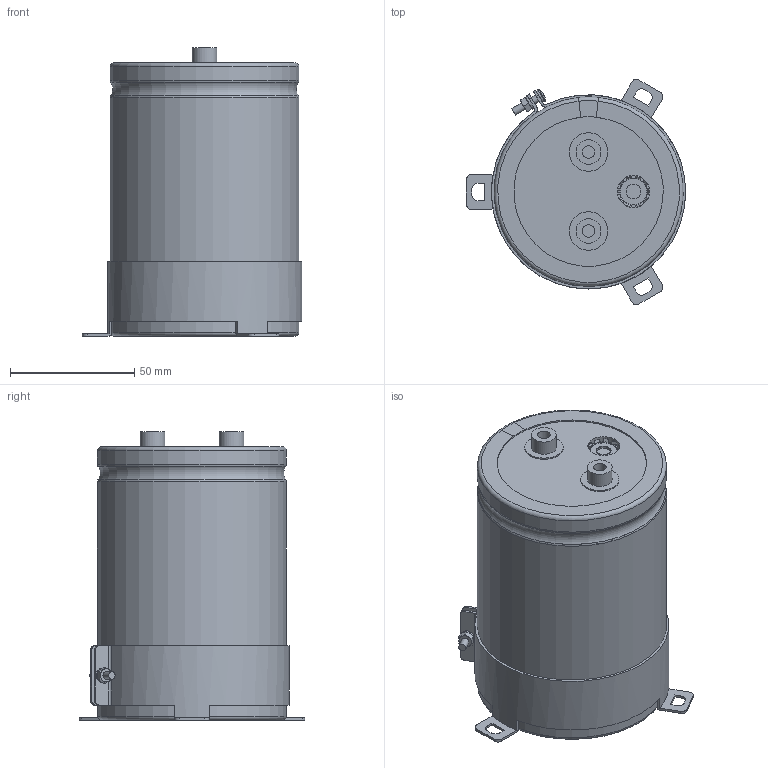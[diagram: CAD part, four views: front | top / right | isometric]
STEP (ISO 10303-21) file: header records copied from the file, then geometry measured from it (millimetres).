
FILE_DESCRIPTION(/* description */ (''),/* implementation_level */ '2;1');
FILE_NAME(/* name */ '76.2x110_Screw.stp',/* time_stamp */ '2017-09-17T13:23:35+09:00',/* author */ (''),/* organization */ (''),/* preprocessor_version */ 'ST-DEVELOPER v16',/* originating_system */ 'SIEMENS PLM Software NX 11.0',/* authorisation */ '');
FILE_SCHEMA (('AUTOMOTIVE_DESIGN { 1 0 10303 214 3 1 1 1 }'));
Length unit declared in the file: millimetre
Products named in the file (1): 76.2x110_Screw
Bounding box: 88.3 x 90.75 x 116 mm (x, y, z)
Volume: 504027 mm3; surface area: 109133.4 mm2
Topology: 9 solids, 9 shells, 259 faces, 642 edges, 413 vertices
Faces by surface type: plane 112, cylinder 66, torus 49, cone 31, sphere 1
Full cylindrical faces by diameter (mm): 3 x5, 5 x2, 5.5 x2, 6 x4, 8 x1, 10 x2, 13 x2, 15.5 x2, 75 x2
Entity records: 8534 total; most frequent: CARTESIAN_POINT 2182, DIRECTION 1296, ORIENTED_EDGE 1214, EDGE_CURVE 607, AXIS2_PLACEMENT_3D 541, VERTEX_POINT 408, EDGE_LOOP 317, CIRCLE 281
